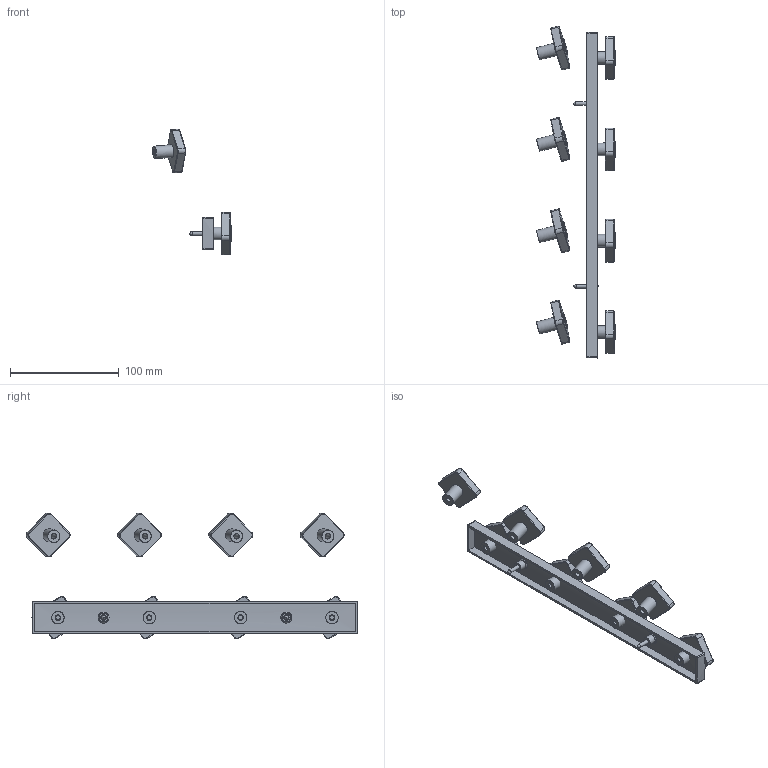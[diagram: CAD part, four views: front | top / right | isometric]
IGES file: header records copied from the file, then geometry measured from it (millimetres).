
Start section: C
Global section: file name: 8168.igs; native system: By Siemens PLM Incorporated; preprocessor: XPlus GENERIC/IGES 16.0.42; author: Author; organization: Title; date: 20231119.134621; units: millimetre
Bounding box: 72.36 x 305.08 x 115.67 mm (x, y, z)
Surface area: 74471 mm2 (no closed solid volume)
Topology: 0 solids, 0 shells, 541 faces, 2800 edges, 2792 vertices
Faces by surface type: bspline 541
